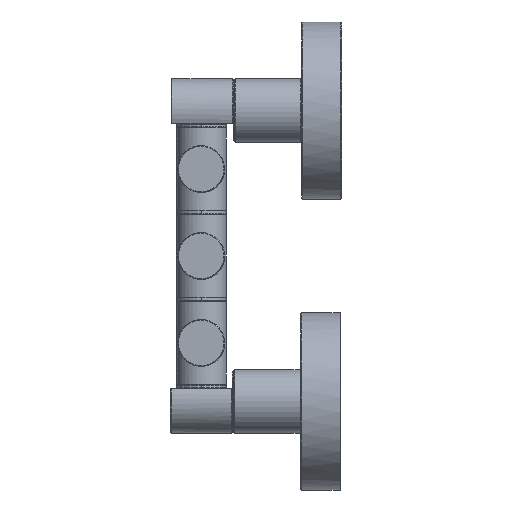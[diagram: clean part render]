
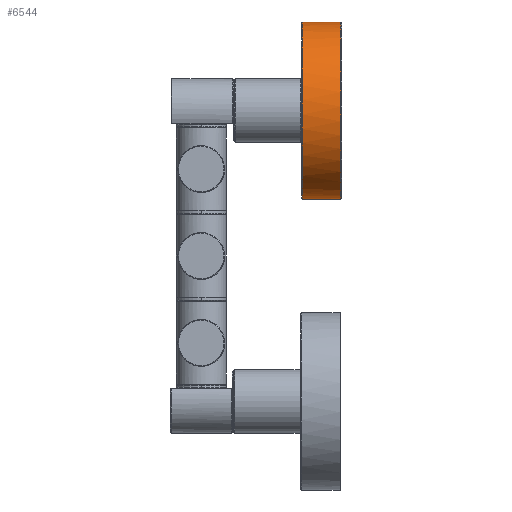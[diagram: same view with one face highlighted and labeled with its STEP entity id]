
A CAD part, left-side view. The second image highlights one B-rep face of the part: STEP entity #6544.
In plain terms, the highlighted cylindrical face has radius 26.5 mm (diameter 53 mm), a partial arc.
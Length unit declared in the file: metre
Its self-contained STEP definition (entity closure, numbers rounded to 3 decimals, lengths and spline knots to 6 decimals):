
#6249=VERTEX_POINT('',#6250);
#6250=CARTESIAN_POINT('',(-0.0,0.0002,0.0265));
#6255=CARTESIAN_POINT('',(0.0,0.0002,-0.0265));
#6257=EDGE_CURVE('',#6258,#6249,#6260,.T.);
#6258=VERTEX_POINT('',#6259);
#6259=CARTESIAN_POINT('',(0.0,0.0002,-0.0265));
#6260=(B_SPLINE_CURVE(3,(#6255,#6261,#6262,#6263),.UNSPECIFIED.,.F.,.U.)B_SPLINE_CURVE_WITH_KNOTS(
  (4,4),(0.0,1.0),.UNSPECIFIED.)BOUNDED_CURVE()CURVE()GEOMETRIC_REPRESENTATION_ITEM(
  )RATIONAL_B_SPLINE_CURVE((1.0,0.333,0.333,1.0)
  )REPRESENTATION_ITEM(''));
#6261=CARTESIAN_POINT('',(-0.053,0.0002,-0.0265));
#6262=CARTESIAN_POINT('',(-0.053,0.0002,0.0265));
#6263=CARTESIAN_POINT('',(0.0,0.0002,0.0265));
#6291=VERTEX_POINT('',#6292);
#6292=CARTESIAN_POINT('',(-0.0,0.0118,0.0265));
#6299=VERTEX_POINT('',#6300);
#6300=CARTESIAN_POINT('',(0.0,0.0118,-0.0265));
#6544=ADVANCED_FACE('',(#6550),#6545,.T.);
#6545=CYLINDRICAL_SURFACE('',#6546,0.0265);
#6546=AXIS2_PLACEMENT_3D('',#6547,#6548,#6549);
#6547=CARTESIAN_POINT('',(0.0,0.012,0.0));
#6548=DIRECTION('',(0.0,1.0,0.0));
#6549=DIRECTION('',(0.,0.0,-1.0));
#6550=FACE_OUTER_BOUND('',#6551,.T.);
#6551=EDGE_LOOP('',(#6552,#6553,#6559,#6566));
#6552=ORIENTED_EDGE('',*,*,#6257,.T.);
#6553=ORIENTED_EDGE('',*,*,#6554,.T.);
#6554=EDGE_CURVE('',#6249,#6291,#6555,.T.);
#6555=LINE('',#6556,#6557);
#6556=CARTESIAN_POINT('',(-0.0,0.012,0.0265));
#6557=VECTOR('',#6558,1.0);
#6558=DIRECTION('',(0.0,1.0,0.0));
#6559=ORIENTED_EDGE('',*,*,#6561,.T.);
#6560=CARTESIAN_POINT('',(0.0,0.0118,0.0265));
#6561=EDGE_CURVE('',#6291,#6299,#6562,.T.);
#6562=(B_SPLINE_CURVE(3,(#6560,#6563,#6564,#6565),.UNSPECIFIED.,.F.,.U.)B_SPLINE_CURVE_WITH_KNOTS(
  (4,4),(0.0,1.0),.UNSPECIFIED.)BOUNDED_CURVE()CURVE()GEOMETRIC_REPRESENTATION_ITEM(
  )RATIONAL_B_SPLINE_CURVE((1.0,0.333,0.333,1.0)
  )REPRESENTATION_ITEM(''));
#6563=CARTESIAN_POINT('',(-0.053,0.0118,0.0265));
#6564=CARTESIAN_POINT('',(-0.053,0.0118,-0.0265));
#6565=CARTESIAN_POINT('',(0.0,0.0118,-0.0265));
#6566=ORIENTED_EDGE('',*,*,#6567,.F.);
#6567=EDGE_CURVE('',#6258,#6299,#6568,.T.);
#6568=LINE('',#6569,#6570);
#6569=CARTESIAN_POINT('',(0.0,0.012,-0.0265));
#6570=VECTOR('',#6571,1.0);
#6571=DIRECTION('',(0.0,1.0,0.0));
